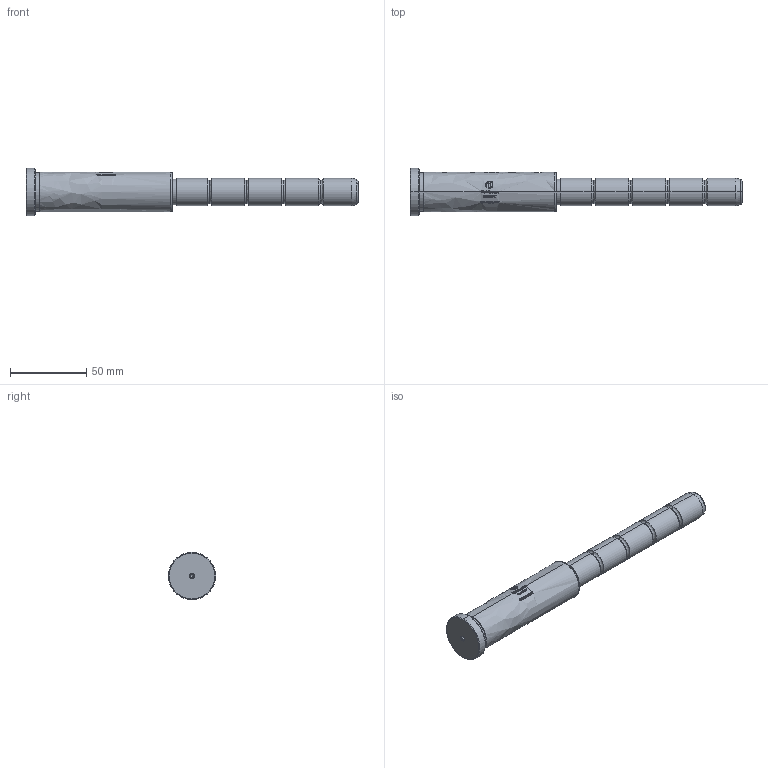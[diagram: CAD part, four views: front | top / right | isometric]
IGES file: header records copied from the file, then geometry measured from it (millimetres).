
Start section: SolidWorks IGES file using analytic representation for surfaces
Global section: file name: C:\Users\User\Downloads\CFM - 08-09\CFM  - Nova\18\CFM18096122.IGS; native system: SolidWorks 2024; preprocessor: SolidWorks 2024; author: User; date: 260909.103805; units: millimetre
Bounding box: 218 x 31 x 31 mm (x, y, z)
Surface area: 16690.4 mm2 (no closed solid volume)
Topology: 0 solids, 0 shells, 508 faces, 4768 edges, 4764 vertices
Faces by surface type: bspline 407, revolution 101
